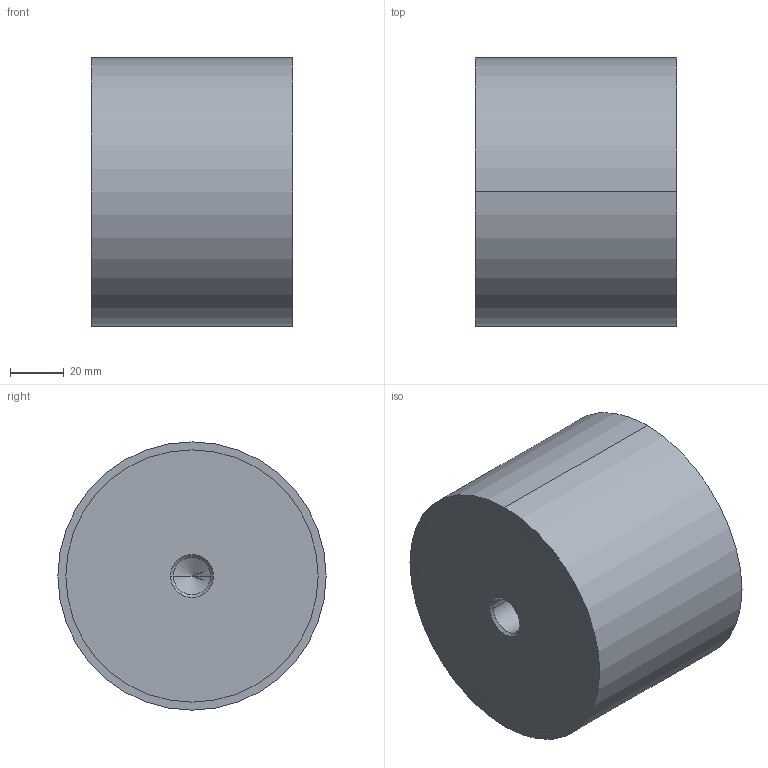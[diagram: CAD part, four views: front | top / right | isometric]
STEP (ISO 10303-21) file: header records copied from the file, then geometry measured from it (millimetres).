
FILE_DESCRIPTION (( 'STEP AP214' ), '1' );
FILE_NAME ('351-100-75-M16-EE-40.step', '2025-07-23T09:57:06', ( '' ), ( '' ), 'SwSTEP 2.0', 'SolidWorks 2022', '' );
FILE_SCHEMA (( 'AUTOMOTIVE_DESIGN' ));
Length unit declared in the file: millimetre
Products named in the file (1): 351-100-75-M16-EE-40
Bounding box: 75 x 100 x 100 mm (x, y, z)
Volume: 583082 mm3; surface area: 40810 mm2
Topology: 1 solids, 1 shells, 28 faces, 58 edges, 34 vertices
Faces by surface type: cylinder 14, cone 8, plane 6
Entity records: 844 total; most frequent: DIRECTION 144, CARTESIAN_POINT 117, ORIENTED_EDGE 108, AXIS2_PLACEMENT_3D 61, EDGE_CURVE 54, VERTEX_POINT 34, EDGE_LOOP 34, CIRCLE 32
